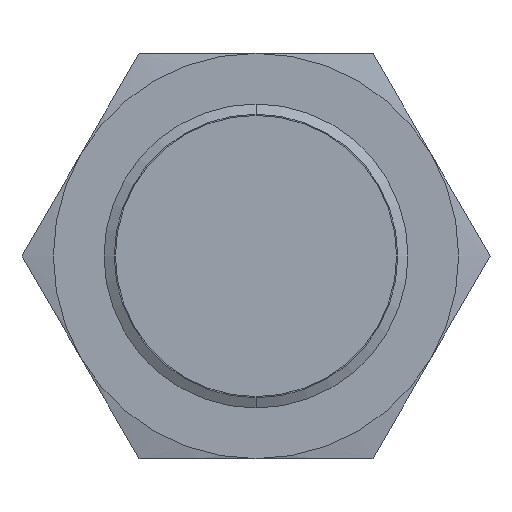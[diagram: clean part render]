
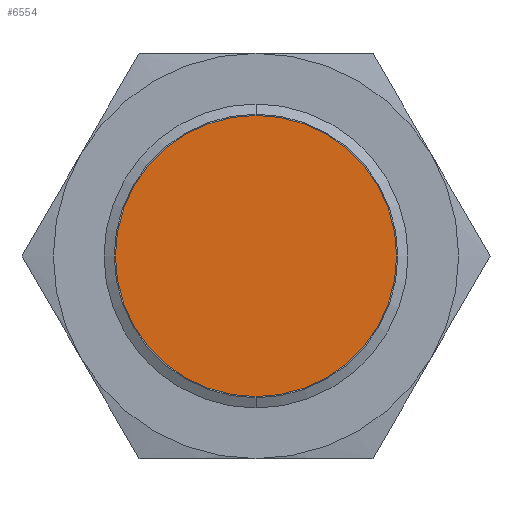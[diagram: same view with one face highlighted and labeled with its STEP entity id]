
A CAD part, left-side view. The second image highlights one B-rep face of the part: STEP entity #6554.
In plain terms, the highlighted planar face has unit normal (-1, 0, 0).
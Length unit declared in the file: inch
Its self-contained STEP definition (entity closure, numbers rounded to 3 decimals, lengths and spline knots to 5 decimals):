
#17153 = ORIENTED_EDGE ( 'NONE', *, *, #2258, .F. ) ;
#17412 = ORIENTED_EDGE ( 'NONE', *, *, #5911, .F. ) ;
#2258 = EDGE_CURVE ( 'NONE', #2492, #3223, #9114, .T. ) ;
#2492 = VERTEX_POINT ( 'NONE', #9191 ) ;
#3223 = VERTEX_POINT ( 'NONE', #9872 ) ;
#5911 = EDGE_CURVE ( 'NONE', #3223, #2492, #11479, .T. ) ;
#6477 = EDGE_LOOP ( 'NONE', ( #17412, #17153 ) ) ;
#6554 = ADVANCED_FACE ( 'NONE', ( #12537 ), #12538, .F. ) ;
#9114 = CIRCLE ( 'NONE', #9115, 0.3275 ) ;
#9115 = AXIS2_PLACEMENT_3D ( 'NONE', #9116, #9117, #9118 ) ;
#9116 = CARTESIAN_POINT ( 'NONE',  ( 0., 0., 0. ) ) ;
#9117 = DIRECTION ( 'NONE',  ( 1., 0., 0. ) ) ;
#9118 = DIRECTION ( 'NONE',  ( 0., 0., 1. ) ) ;
#9191 = CARTESIAN_POINT ( 'NONE',  ( 0., 0., -0.3275 ) ) ;
#9872 = CARTESIAN_POINT ( 'NONE',  ( 0., 0., 0.3275 ) ) ;
#11479 = CIRCLE ( 'NONE', #11480, 0.3275 ) ;
#11480 = AXIS2_PLACEMENT_3D ( 'NONE', #11481, #11482, #11483 ) ;
#11481 = CARTESIAN_POINT ( 'NONE',  ( 0., 0., 0. ) ) ;
#11482 = DIRECTION ( 'NONE',  ( 1., 0., 0. ) ) ;
#11483 = DIRECTION ( 'NONE',  ( 0., 0., 1. ) ) ;
#12537 = FACE_OUTER_BOUND ( 'NONE', #6477, .T. ) ;
#12538 = PLANE ( 'NONE',  #12539 ) ;
#12539 = AXIS2_PLACEMENT_3D ( 'NONE', #12540, #12541, #12542 ) ;
#12540 = CARTESIAN_POINT ( 'NONE',  ( 0., 0., 0. ) ) ;
#12541 = DIRECTION ( 'NONE',  ( 1., 0., 0. ) ) ;
#12542 = DIRECTION ( 'NONE',  ( 0., 0., -1. ) ) ;
